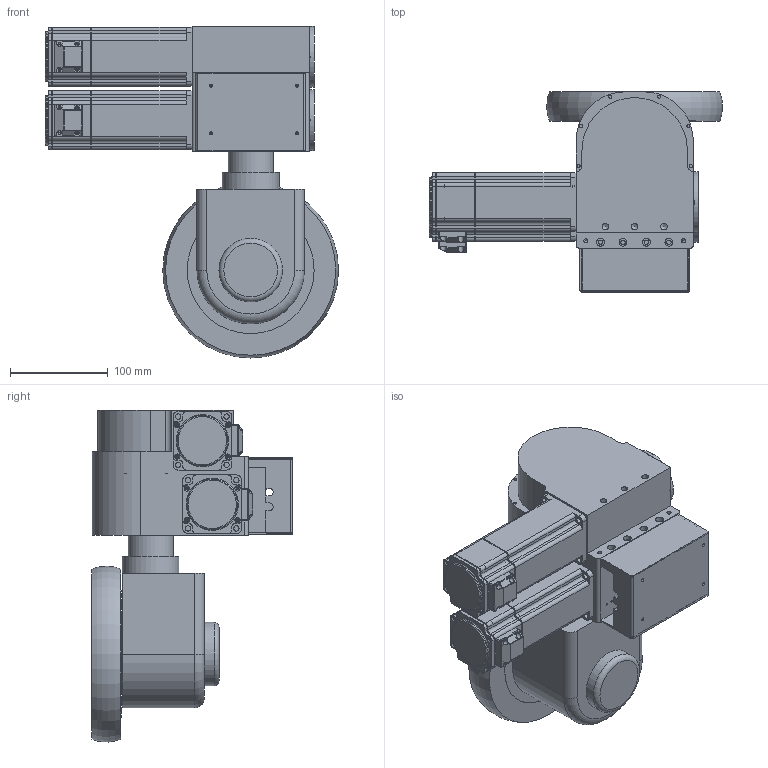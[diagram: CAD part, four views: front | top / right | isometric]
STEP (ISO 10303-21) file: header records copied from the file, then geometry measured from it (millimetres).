
FILE_DESCRIPTION(/* description */ ('','CAx-IF Rec.Pracs.---Representation and Presentation of Product Manufacturing Information (PMI)---3.8---2014-02-18'),/* implementation_level */ '2;1');
FILE_NAME(/* name */ 'D:\User\TIM\Büro\CAD Daten\CAD Projekte\Mobile Plattformen\MPO-700\Baugruppen\Drehantriebsmodul L V2.4.8 Außenteile.stp',/* time_stamp */ '2021-01-29T11:31:38+01:00',/* author */ ('tim'),/* organization */ (''),/* preprocessor_version */ 'ST-DEVELOPER v16.5',/* originating_system */ 'Autodesk Inventor 2017',/* authorisation */ '');
FILE_SCHEMA (('AP242_MANAGED_MODEL_BASED_3D_ENGINEERING_MIM_LF { 1 0 10303 442 1 1 4 }'));
Products named in the file (1): Drehantriebsmodul L V2.4.5 Außenteile
Bounding box: 300.05 x 205.3 x 339.9 mm (x, y, z)
Volume: 4560062.5 mm3; surface area: 465807.5 mm2
Topology: 1 solids, 14 shells, 1831 faces, 5086 edges, 3355 vertices
Faces by surface type: plane 872, cylinder 608, bspline 108, cone 100, torus 91, sphere 52
Full cylindrical faces by diameter (mm): 1.6 x2, 2.013 x16, 2.05 x16, 2.5 x16, 2.7 x8, 2.9 x8, 3 x4, 3.3 x6, 3.4 x8, 3.5 x34, 4.134 x2, 4.5 x4, 4.917 x6, 5.5 x16, 5.8 x8, 6 x8, 6.5 x8, 6.6 x6, 6.647 x3, 7.7 x2, 8 x8, 8.376 x1, 9.6 x4, 10 x4, 12 x8, 12.4 x2, 12.9 x2, 13 x4, 14.6 x4, 15 x2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
Entity records: 63150 total; most frequent: CARTESIAN_POINT 18160, DIRECTION 9307, ORIENTED_EDGE 8880, EDGE_CURVE 4440, AXIS2_PLACEMENT_3D 3623, VERTEX_POINT 3152, EDGE_LOOP 2530, LINE 2061
